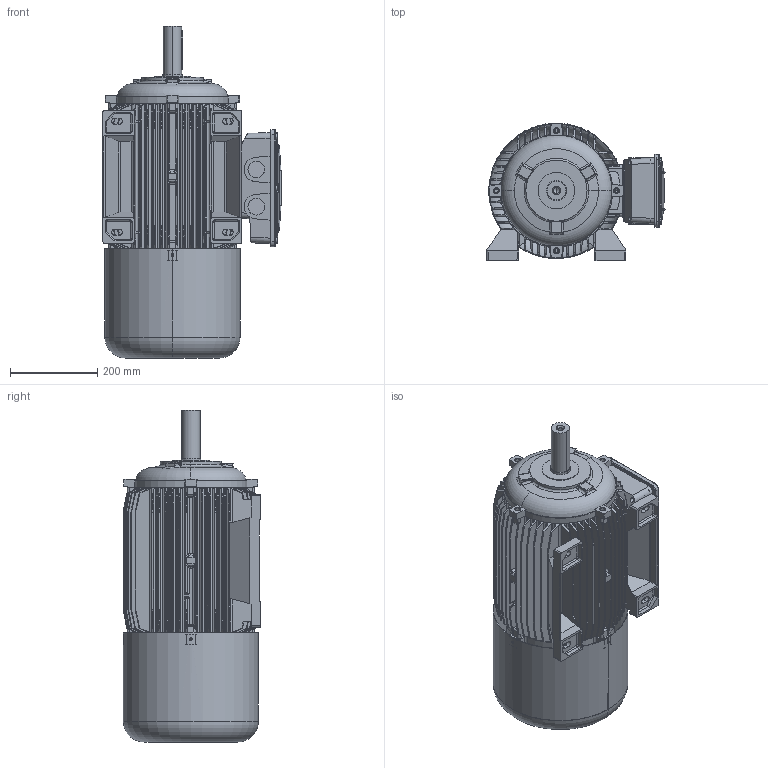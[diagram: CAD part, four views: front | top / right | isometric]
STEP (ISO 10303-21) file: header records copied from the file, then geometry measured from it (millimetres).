
FILE_DESCRIPTION (( 'STEP AP214' ), '1' );
FILE_NAME ('M14LA0013.STEP', '2019-04-16T09:19:07', ( '' ), ( '' ), 'SwSTEP 2.0', 'SolidWorks 2018', '' );
FILE_SCHEMA (( 'AUTOMOTIVE_DESIGN' ));
Length unit declared in the file: millimetre
Products named in the file (13): Chiavetta 160; Albero BM 160 L; Cuffia BM 160; Scatola Morsettiera Doppia BA 160 - 180 - 200 - Completa; Guarnizione Basetta BA 160-180 - 200 - D6BB0000; Vite Testa Bombata M6x20; Guarnizione Coperchio Sc. Mor. BA 160-180-200 - D6BA0100; Coperchio Scatola Morsettiera Doppia BA 160 - 180 - 200 - D6A60099; Scatola morsettiera 160; Scudo Lato Freno P1 BM 160 - D6BE0202; Scudo Lato Comando B3 160 - D6AB0094; Carcassa 160 L B3; M14LA0013
Assembly tree (17 placements, depth 3):
  M14LA0013
    Carcassa 160 L B3
    Scudo Lato Comando B3 160 - D6AB0094
    Scudo Lato Freno P1 BM 160 - D6BE0202
    Scatola Morsettiera Doppia BA 160 - 180 - 200 - Completa
      Scatola morsettiera 160
      Coperchio Scatola Morsettiera Doppia BA 160 - 180 - 200 - D6A60099
      Guarnizione Coperchio Sc. Mor. BA 160-180-200 - D6BA0100
      Vite Testa Bombata M6x20  x6
      Guarnizione Basetta BA 160-180 - 200 - D6BB0000
    Cuffia BM 160
    Albero BM 160 L
    Chiavetta 160
Bounding box: 407.49 x 314.7 x 760 mm (x, y, z)
Volume: 8601598.8 mm3; surface area: 2912365.4 mm2
Topology: 16 solids, 16 shells, 4410 faces, 12266 edges, 7810 vertices
Faces by surface type: cylinder 1878, plane 1386, bspline 489, torus 326, cone 281, sphere 50
Entity records: 211168 total; most frequent: CARTESIAN_POINT 108341, ORIENTED_EDGE 22340, DIRECTION 19685, EDGE_CURVE 11170, AXIS2_PLACEMENT_3D 7224, VERTEX_POINT 7178, LINE 5237, VECTOR 5237
